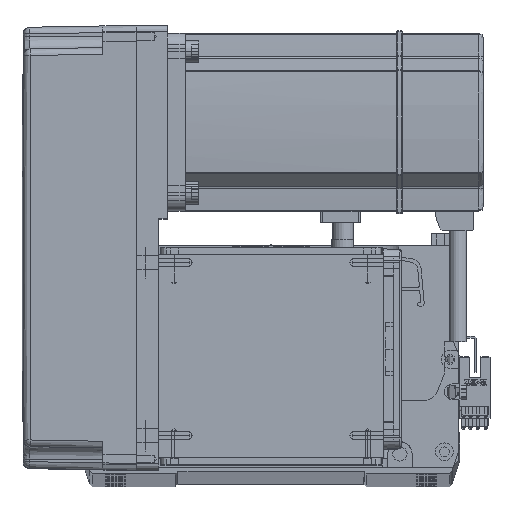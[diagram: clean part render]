
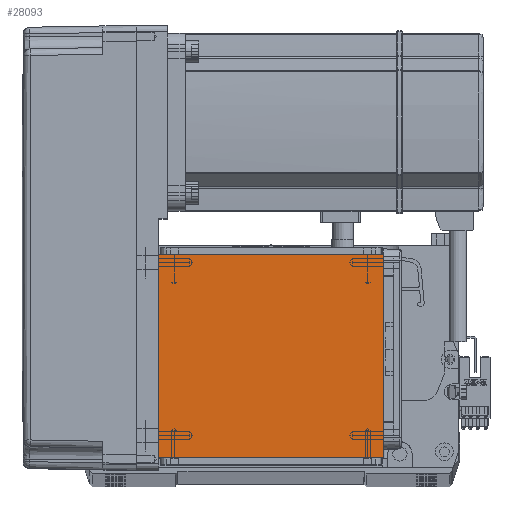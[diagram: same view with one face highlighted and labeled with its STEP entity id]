
A CAD part, top view. The second image highlights one B-rep face of the part: STEP entity #28093.
In plain terms, the highlighted planar face has unit normal (0, 0, 1).
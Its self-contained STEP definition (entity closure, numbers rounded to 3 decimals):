
#509 = ORIENTED_EDGE ( 'NONE', *, *, #12417, .T. ) ;
#1466 = CARTESIAN_POINT ( 'NONE',  ( -70.004, 20., 115. ) ) ;
#6347 = ORIENTED_EDGE ( 'NONE', *, *, #46005, .T. ) ;
#7088 = LINE ( 'NONE', #24646, #35286 ) ;
#10226 = DIRECTION ( 'NONE',  ( 0., 0., 1. ) ) ;
#10638 = FACE_OUTER_BOUND ( 'NONE', #33902, .T. ) ;
#11008 = CARTESIAN_POINT ( 'NONE',  ( -50.5, 111.5, 115. ) ) ;
#12417 = EDGE_CURVE ( 'NONE', #56700, #42602, #17952, .T. ) ;
#13202 = ORIENTED_EDGE ( 'NONE', *, *, #38218, .F. ) ;
#14740 = DIRECTION ( 'NONE',  ( 0., -1., 0. ) ) ;
#14927 = VECTOR ( 'NONE', #27153, 1000. ) ;
#15427 = AXIS2_PLACEMENT_3D ( 'NONE', #41061, #10226, #46232 ) ;
#16191 = VERTEX_POINT ( 'NONE', #11008 ) ;
#17952 = LINE ( 'NONE', #52598, #65492 ) ;
#21938 = CARTESIAN_POINT ( 'NONE',  ( 50.5, 20., 115. ) ) ;
#23780 = LINE ( 'NONE', #32084, #14927 ) ;
#24646 = CARTESIAN_POINT ( 'NONE',  ( -50.5, 122., 115. ) ) ;
#26063 = VECTOR ( 'NONE', #32417, 1000. ) ;
#27153 = DIRECTION ( 'NONE',  ( 1., 0., 0. ) ) ;
#28093 = ADVANCED_FACE ( 'NONE', ( #10638 ), #61790, .T. ) ;
#32084 = CARTESIAN_POINT ( 'NONE',  ( -70.004, 111.5, 115. ) ) ;
#32417 = DIRECTION ( 'NONE',  ( -1., 0., 0. ) ) ;
#33902 = EDGE_LOOP ( 'NONE', ( #55667, #6347, #13202, #509 ) ) ;
#35286 = VECTOR ( 'NONE', #14740, 1000. ) ;
#38218 = EDGE_CURVE ( 'NONE', #56700, #59260, #39720, .T. ) ;
#39720 = LINE ( 'NONE', #1466, #26063 ) ;
#41061 = CARTESIAN_POINT ( 'NONE',  ( 0., 0., 115. ) ) ;
#42602 = VERTEX_POINT ( 'NONE', #48309 ) ;
#44985 = CARTESIAN_POINT ( 'NONE',  ( -50.5, 20., 115. ) ) ;
#46005 = EDGE_CURVE ( 'NONE', #16191, #59260, #7088, .T. ) ;
#46232 = DIRECTION ( 'NONE',  ( 1., 0., 0. ) ) ;
#48309 = CARTESIAN_POINT ( 'NONE',  ( 50.5, 111.5, 115. ) ) ;
#52598 = CARTESIAN_POINT ( 'NONE',  ( 50.5, 122., 115. ) ) ;
#53046 = DIRECTION ( 'NONE',  ( 0., 1., 0. ) ) ;
#55667 = ORIENTED_EDGE ( 'NONE', *, *, #64097, .F. ) ;
#56700 = VERTEX_POINT ( 'NONE', #21938 ) ;
#59260 = VERTEX_POINT ( 'NONE', #44985 ) ;
#61790 = PLANE ( 'NONE',  #15427 ) ;
#64097 = EDGE_CURVE ( 'NONE', #16191, #42602, #23780, .T. ) ;
#65492 = VECTOR ( 'NONE', #53046, 1000. ) ;
